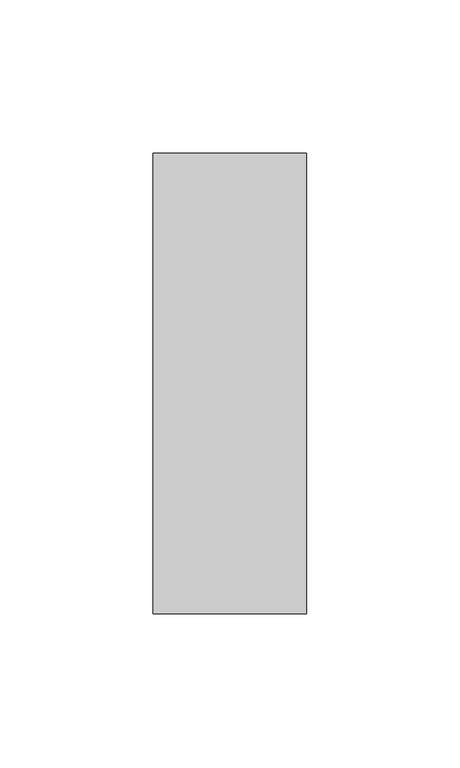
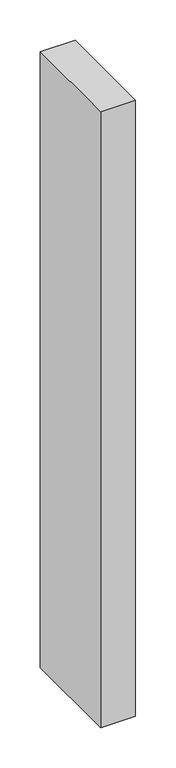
"""IFC4 building model written with IfcOpenShell, lengths in millimetres: member geometry, Прямоугольный импост : 50 x 150 мм."""

from ifc_helpers import new_model, si_unit, frame, origin, place, context, project, spatial, polyline, outline, extrude, source, transform, mapped, element, save


def member_8f6a1c1c(model_context):
    return source(origin(), model_context, "Body", "SweptSolid", [
        extrude(outline(polyline([(25.0, 75.0), (25.0, -75.0), (-25.0, -75.0), (-25.0, 75.0), (25.0, 75.0)])), frame((0.0, 0.0, -934.9529478), z_axis=(0.0, 0.0, 1.0), x_axis=(1.0, 0.0, 0.0)), (0.0, 0.0, 1.0), 934.9529478),
    ])


if __name__ == "__main__":
    model = new_model("IFC4")
    model_context = context("Model", 3, world=origin())
    ifc_project = project(units=[si_unit("LENGTHUNIT", "METRE", prefix="MILLI")], contexts=[model_context])
    site = spatial("IfcSite", under=ifc_project)
    building = spatial("IfcBuilding", under=site)
    placement = place(None, origin())
    member_shape = member_8f6a1c1c(model_context)
    element("IfcMember", 1, ObjectType="Прямоугольный импост : 50 x 150 мм", at=placement, inside=building, context=model_context, shape_type="MappedRepresentation", body=[
        mapped(member_shape, transform((0.0, 0.0, 0.0), x_axis=(1.0, 0.0, 0.0), y_axis=(0.0, 1.0, 0.0), z_axis=(0.0, 0.0, 1.0))),
    ])
    save(model, "model.ifc")
